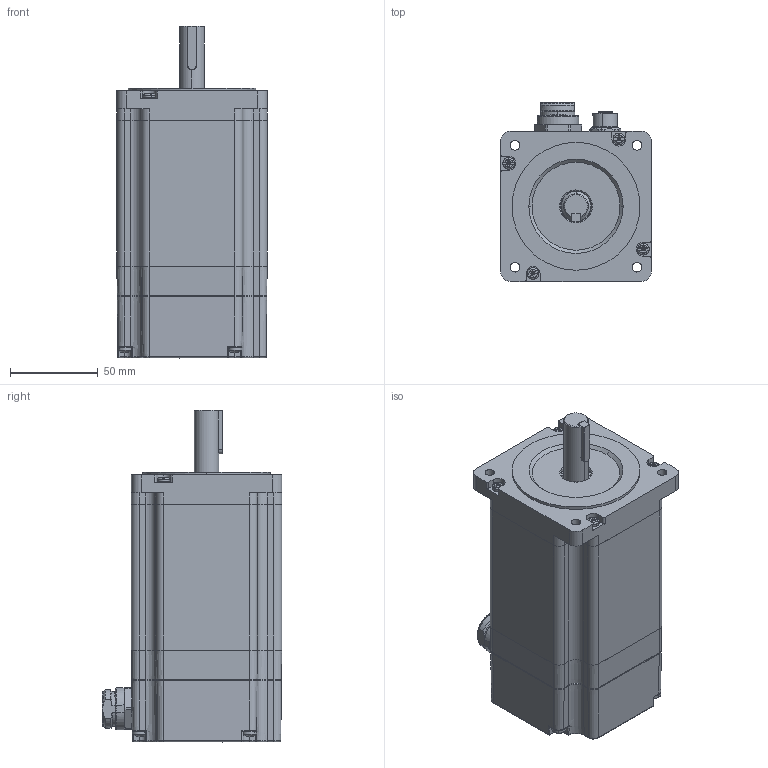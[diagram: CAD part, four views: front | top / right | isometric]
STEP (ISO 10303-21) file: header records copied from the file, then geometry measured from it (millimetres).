
FILE_DESCRIPTION (( 'STEP AP214' ), '1' );
FILE_NAME ('M86SH118-TO0512P24C.STEP', '2025-12-20T08:57:51', ( '' ), ( '' ), 'SwSTEP 2.0', 'SolidWorks 2019', '' );
FILE_SCHEMA (( 'AUTOMOTIVE_DESIGN' ));
Length unit declared in the file: millimetre
Products named in the file (1): M86SH118-TO0512P24C
Bounding box: 85.9 x 102.59 x 189.55 mm (x, y, z)
Surface area: 186061.3 mm2 (no closed solid volume)
Topology: 0 solids, 31 shells, 1931 faces, 4957 edges, 3155 vertices
Faces by surface type: plane 787, cylinder 538, bspline 255, cone 197, torus 138, sphere 16
Entity records: 92431 total; most frequent: CARTESIAN_POINT 26731, ORIENTED_EDGE 9794, DIRECTION 8172, EDGE_CURVE 4901, VERTEX_POINT 3155, AXIS2_PLACEMENT_3D 3080, EDGE_LOOP 2198, VECTOR 2012
